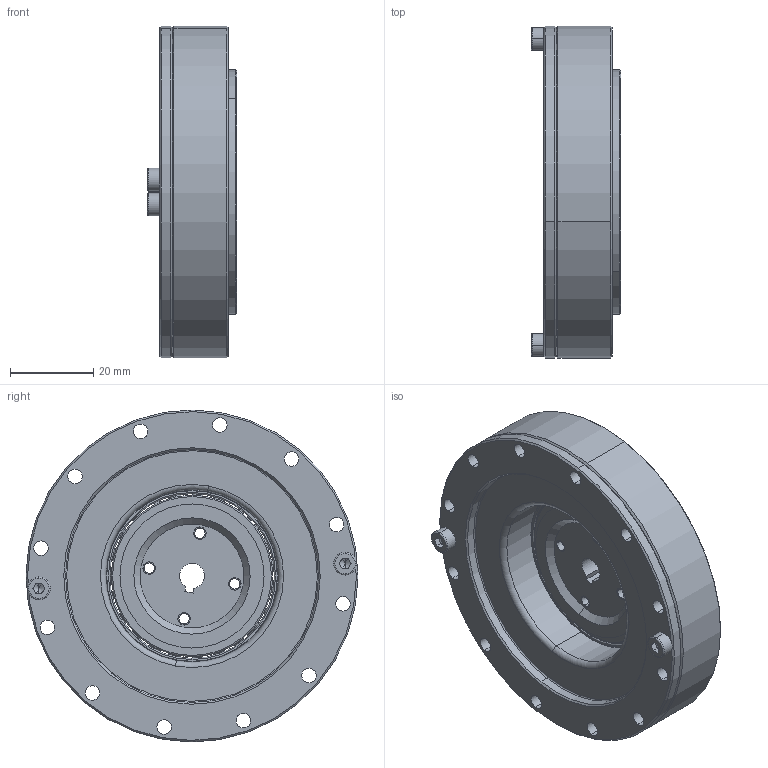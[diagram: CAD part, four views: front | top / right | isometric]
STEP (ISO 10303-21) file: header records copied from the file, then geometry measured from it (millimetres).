
FILE_DESCRIPTION((''),'2;1');
FILE_NAME('LHD-17-XXX-C-I_ASM','2019-10-16T',('Administrator'),(''),'PRO/ENGINEER BY PARAMETRIC TECHNOLOGY CORPORATION, 2014200','PRO/ENGINEER BY PARAMETRIC TECHNOLOGY CORPORATION, 2014200','');
FILE_SCHEMA(('AUTOMOTIVE_DESIGN { 1 0 10303 214 1 1 1 1 }'));
Length unit declared in the file: millimetre
Products named in the file (10): RZC内外圈_钢珠; 悵厥殤; LHD-17-XXX-P01; LHD-17-XXX-P04; YF-17; DIN_912_M3_X_6_---_6C; LHD-17-XXX-P02; DIN_912_M2_X_6_---_6C; PRT0137; LHD-17-XXX-C-I_ASM
Assembly tree (15 placements, depth 2):
  LHD-17-XXX-C-I_ASM
    RZC内外圈_钢珠
    悵厥殤
    LHD-17-XXX-P01
    LHD-17-XXX-P04
    YF-17
    DIN_912_M3_X_6_---_6C  x2
    LHD-17-XXX-P02
    DIN_912_M2_X_6_---_6C  x6
    PRT0137
Bounding box: 21.5 x 80 x 80 mm (x, y, z)
Volume: 54726.2 mm3; surface area: 52491.5 mm2
Topology: 16 solids, 21 shells, 769 faces, 2004 edges, 1184 vertices
Faces by surface type: cylinder 327, plane 214, cone 110, torus 72, sphere 46
Entity records: 21024 total; most frequent: CARTESIAN_POINT 4913, DIRECTION 3636, ORIENTED_EDGE 3024, AXIS2_PLACEMENT_3D 1572, EDGE_CURVE 1520, VERTEX_POINT 986, CIRCLE 936, EDGE_LOOP 772
